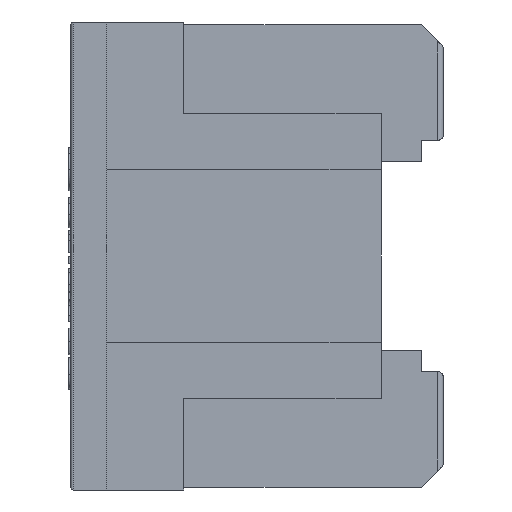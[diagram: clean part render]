
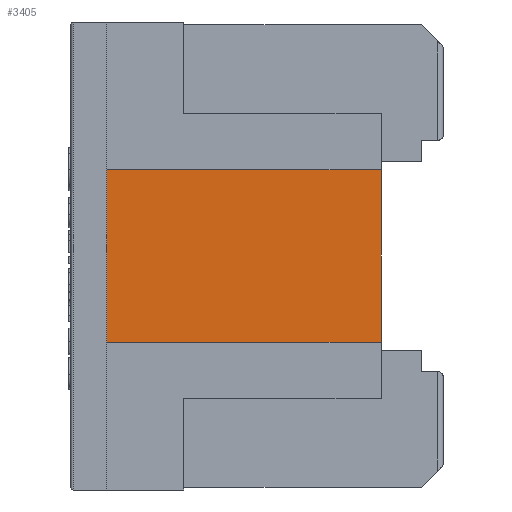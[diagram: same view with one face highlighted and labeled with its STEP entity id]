
A CAD part, left-side view. The second image highlights one B-rep face of the part: STEP entity #3405.
In plain terms, the highlighted planar face has unit normal (-1, 0, 0).
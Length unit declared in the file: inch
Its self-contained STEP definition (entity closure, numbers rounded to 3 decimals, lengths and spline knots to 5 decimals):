
#257=FACE_OUTER_BOUND('',#445,.T.);
#445=EDGE_LOOP('',(#2235,#2236,#2237,#2238));
#643=LINE('',#4392,#1007);
#652=LINE('',#4410,#1016);
#653=LINE('',#4412,#1017);
#654=LINE('',#4413,#1018);
#1007=VECTOR('',#3752,0.3937);
#1016=VECTOR('',#3765,0.3937);
#1017=VECTOR('',#3766,0.3937);
#1018=VECTOR('',#3767,0.3937);
#1371=VERTEX_POINT('',#4390);
#1372=VERTEX_POINT('',#4391);
#1379=VERTEX_POINT('',#4409);
#1380=VERTEX_POINT('',#4411);
#1711=EDGE_CURVE('',#1371,#1372,#643,.T.);
#1720=EDGE_CURVE('',#1379,#1372,#652,.T.);
#1721=EDGE_CURVE('',#1379,#1380,#653,.T.);
#1722=EDGE_CURVE('',#1380,#1371,#654,.T.);
#2235=ORIENTED_EDGE('',*,*,#1711,.T.);
#2236=ORIENTED_EDGE('',*,*,#1720,.F.);
#2237=ORIENTED_EDGE('',*,*,#1721,.T.);
#2238=ORIENTED_EDGE('',*,*,#1722,.T.);
#3255=PLANE('',#3613);
#3405=ADVANCED_FACE('',(#257),#3255,.T.);
#3613=AXIS2_PLACEMENT_3D('',#4408,#3763,#3764);
#3752=DIRECTION('',(0.,1.,0.));
#3763=DIRECTION('center_axis',(-1.,0.,0.));
#3764=DIRECTION('ref_axis',(0.,-1.,0.));
#3765=DIRECTION('',(0.,0.,1.));
#3766=DIRECTION('',(0.,-1.,0.));
#3767=DIRECTION('',(0.,0.,1.));
#4390=CARTESIAN_POINT('',(-0.07441,-0.287,0.08));
#4391=CARTESIAN_POINT('',(-0.07441,-0.033,0.08));
#4392=CARTESIAN_POINT('',(-0.07441,-0.16,0.08));
#4408=CARTESIAN_POINT('Origin',(-0.07441,-0.033,-0.21654));
#4409=CARTESIAN_POINT('',(-0.07441,-0.033,-0.08));
#4410=CARTESIAN_POINT('',(-0.07441,-0.033,-0.10827));
#4411=CARTESIAN_POINT('',(-0.07441,-0.287,-0.08));
#4412=CARTESIAN_POINT('',(-0.07441,-0.16,-0.08));
#4413=CARTESIAN_POINT('',(-0.07441,-0.287,-0.21654));
